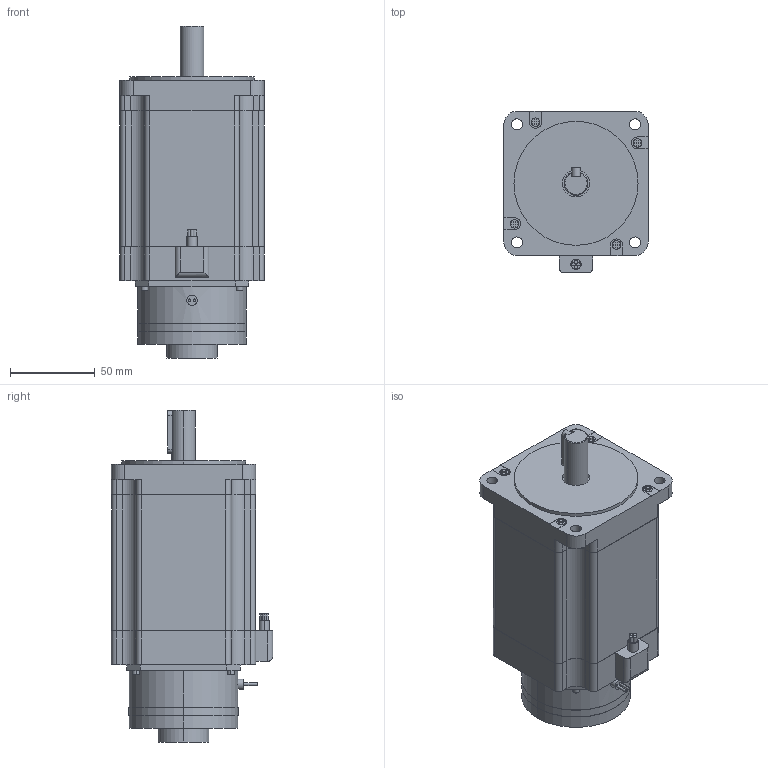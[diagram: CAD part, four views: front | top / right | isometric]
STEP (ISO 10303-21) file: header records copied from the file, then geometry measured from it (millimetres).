
FILE_DESCRIPTION (( 'STEP AP203' ), '1' );
FILE_NAME ('UB86D24-D60-4118.STEP', '2019-11-16T02:53:16', ( 'China' ), ( 'Home' ), 'SwSTEP 2.0', 'SolidWorks 2016', '' );
FILE_SCHEMA (( 'CONFIG_CONTROL_DESIGN' ));
Length unit declared in the file: millimetre
Products named in the file (1): UB86D24-D60-4118
Bounding box: 85 x 95 x 195.5 mm (x, y, z)
Volume: 907719.2 mm3; surface area: 64683.3 mm2
Topology: 1 solids, 2 shells, 290 faces, 750 edges, 498 vertices
Faces by surface type: plane 180, cylinder 107, torus 3
Entity records: 9175 total; most frequent: CARTESIAN_POINT 1792, DIRECTION 1530, ORIENTED_EDGE 1500, EDGE_CURVE 750, LINE 530, VECTOR 530, AXIS2_PLACEMENT_3D 500, VERTEX_POINT 498
